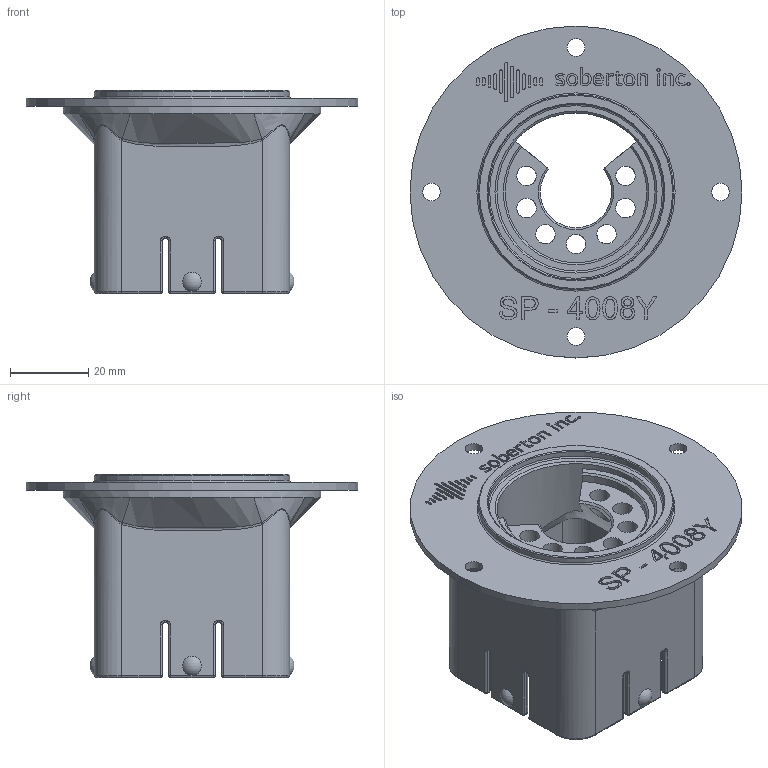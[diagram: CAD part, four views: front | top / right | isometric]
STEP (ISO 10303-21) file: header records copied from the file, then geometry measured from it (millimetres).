
FILE_DESCRIPTION(/* description */ ('Alibre Inc.'),/* implementation_level */ '2;1');
FILE_NAME(/* name */ 'export-EC391F38-C6DC-4DF7-B813-A5A5A06F3B40',/* time_stamp */ '2020-09-29T19:57:46-05:00',/* author */ (''),/* organization */ (''),/* preprocessor_version */ 'ST-DEVELOPER v17',/* originating_system */ 'Alibre',/* authorisation */ '');
FILE_SCHEMA (('AUTOMOTIVE_DESIGN'));
Length unit declared in the file: millimetre
Bounding box: 85 x 85 x 52 mm (x, y, z)
Volume: 52194.9 mm3; surface area: 26659.2 mm2
Topology: 1 solids, 2 shells, 743 faces, 1943 edges, 1221 vertices
Faces by surface type: bspline 306, plane 207, cylinder 151, torus 38, sphere 36, cone 5
Full cylindrical faces by diameter (mm): 0.649 x1, 4.5 x4, 5 x7, 40.5 x1, 45 x1, 50 x1, 66 x1, 85 x1
Entity records: 30206 total; most frequent: CARTESIAN_POINT 14452, ORIENTED_EDGE 3754, DIRECTION 2207, EDGE_CURVE 1877, VERTEX_POINT 1209, VECTOR 892, LINE 892, EDGE_LOOP 838
